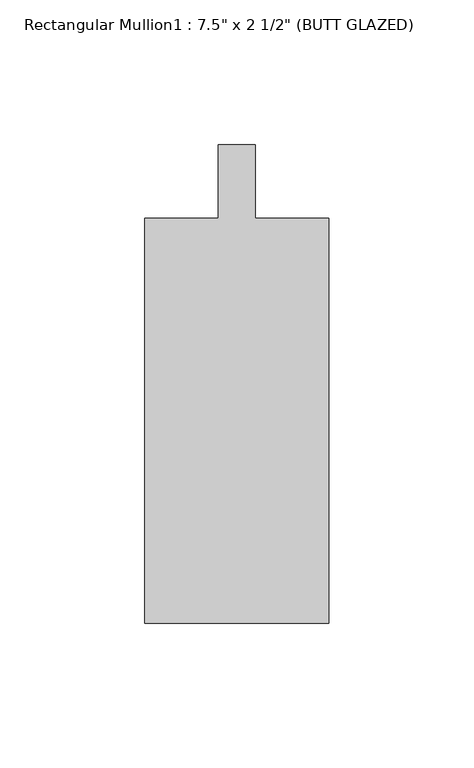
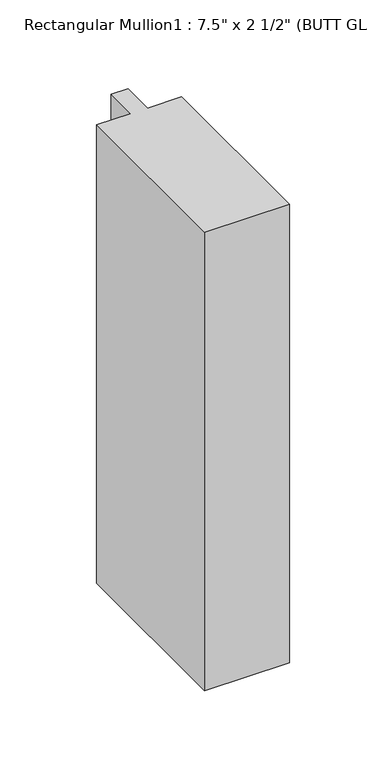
"""IFC4 building model written with IfcOpenShell, lengths in millimetres: member geometry."""

from ifc_helpers import new_model, si_unit, frame, origin, place, context, project, spatial, polyline, outline, extrude, source, transform, mapped, element, save


def member_d953c19f(model_context):
    return source(origin(), model_context, "Body", "SweptSolid", [
        extrude(outline(polyline([(31.75, -165.1), (-31.75, -165.1), (-31.75, -25.4), (-6.35, -25.4), (-6.35, 0.0), (6.35, 0.0), (6.35, -25.4), (31.75, -25.4), (31.75, -165.1)])), frame((0.0, 0.0, -361.95), z_axis=(0.0, 0.0, 1.0), x_axis=(1.0, 0.0, 0.0)), (0.0, 0.0, 1.0), 361.95),
    ])


if __name__ == "__main__":
    model = new_model("IFC4")
    model_context = context("Model", 3, world=origin())
    ifc_project = project(units=[si_unit("LENGTHUNIT", "METRE", prefix="MILLI")], contexts=[model_context])
    site = spatial("IfcSite", under=ifc_project)
    building = spatial("IfcBuilding", under=site)
    placement = place(None, origin())
    member_shape = member_d953c19f(model_context)
    element("IfcMember", 1, ObjectType="Rectangular Mullion1 : 7.5\" x 2 1/2\" (BUTT GLAZED)", at=placement, inside=building, context=model_context, shape_type="MappedRepresentation", body=[
        mapped(member_shape, transform((0.0, 0.0, 0.0), x_axis=(1.0, 0.0, 0.0), y_axis=(0.0, 1.0, 0.0), z_axis=(0.0, 0.0, 1.0))),
    ])
    save(model, "model.ifc")
